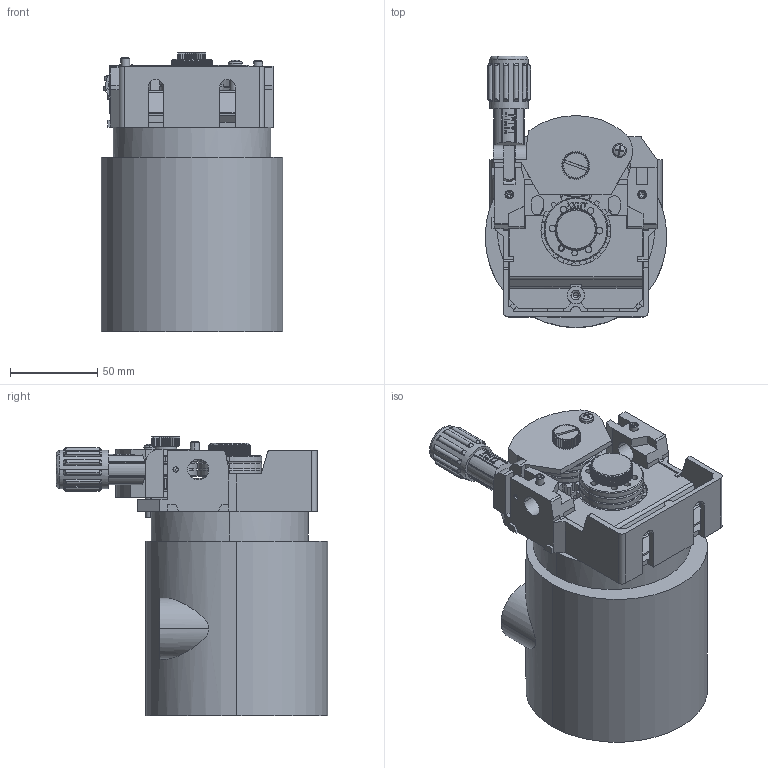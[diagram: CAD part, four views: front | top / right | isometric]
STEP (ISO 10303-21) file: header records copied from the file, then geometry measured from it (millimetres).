
FILE_DESCRIPTION (( 'STEP AP214' ), '1' );
FILE_NAME ('0000003199.STEP', '2015-11-30T10:50:17', ( 'HP' ), ( 'Hewlett-Packard Company' ), 'SwSTEP 2.0', 'SolidWorks 2014', '' );
FILE_SCHEMA (( 'AUTOMOTIVE_DESIGN' ));
Length unit declared in the file: millimetre
Products named in the file (1): 0000003199
Bounding box: 104 x 155.21 x 160.13 mm (x, y, z)
Volume: 1124927 mm3; surface area: 146577.1 mm2
Topology: 13 solids, 13 shells, 2092 faces, 5962 edges, 3894 vertices
Faces by surface type: plane 1053, cylinder 646, cone 247, bspline 146
Entity records: 100453 total; most frequent: CARTESIAN_POINT 33852, ORIENTED_EDGE 11884, DIRECTION 10759, EDGE_CURVE 5942, VERTEX_POINT 3898, AXIS2_PLACEMENT_3D 3782, VECTOR 3195, LINE 3195
